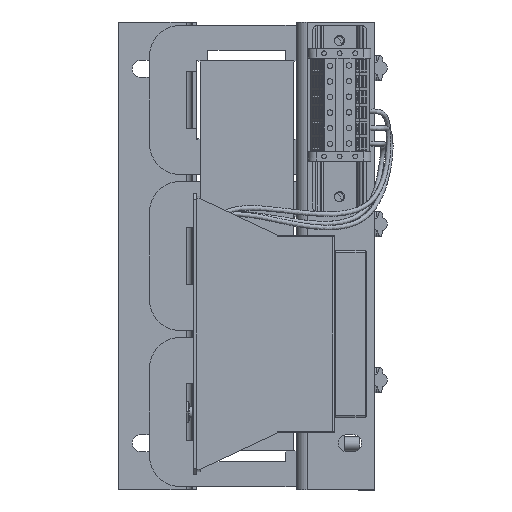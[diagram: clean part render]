
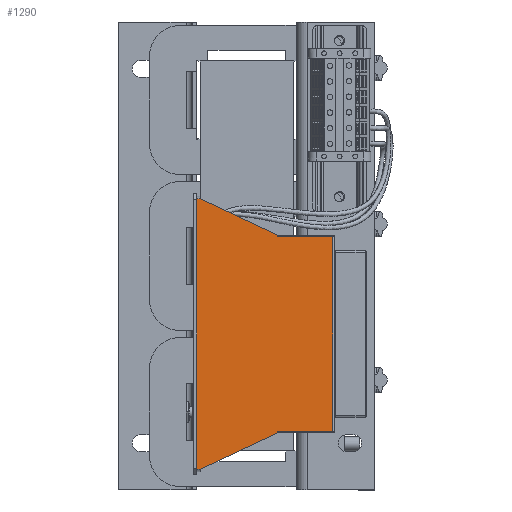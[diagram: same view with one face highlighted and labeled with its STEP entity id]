
A CAD part, left-side view. The second image highlights one B-rep face of the part: STEP entity #1290.
In plain terms, the highlighted planar face has unit normal (-1, 0, 0).
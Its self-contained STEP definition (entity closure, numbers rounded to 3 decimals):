
#269=CARTESIAN_POINT('',(-155.47,136.857,-227.073));
#270=VERTEX_POINT('',#269);
#278=CARTESIAN_POINT('',(-155.47,136.857,-53.704));
#279=VERTEX_POINT('',#278);
#280=CARTESIAN_POINT('',(-155.47,136.857,-227.073));
#281=DIRECTION('',(0.0,0.0,1.0));
#282=VECTOR('',#281,173.369);
#283=LINE('',#280,#282);
#284=EDGE_CURVE('',#270,#279,#283,.T.);
#819=CARTESIAN_POINT('',(-155.47,134.857,-227.073));
#820=VERTEX_POINT('',#819);
#821=CARTESIAN_POINT('',(-155.47,85.257,-203.789));
#822=VERTEX_POINT('',#821);
#823=CARTESIAN_POINT('',(-155.47,134.857,-227.073));
#824=DIRECTION('',(0.0,-0.905,0.425));
#825=VECTOR('',#824,54.793);
#826=LINE('',#823,#825);
#827=EDGE_CURVE('',#820,#822,#826,.T.);
#998=CARTESIAN_POINT('',(-155.47,85.257,-76.989));
#999=VERTEX_POINT('',#998);
#1000=CARTESIAN_POINT('',(-155.47,134.857,-53.704));
#1001=VERTEX_POINT('',#1000);
#1002=CARTESIAN_POINT('',(-155.47,85.257,-76.989));
#1003=DIRECTION('',(0.0,0.905,0.425));
#1004=VECTOR('',#1003,54.793);
#1005=LINE('',#1002,#1004);
#1006=EDGE_CURVE('',#999,#1001,#1005,.T.);
#1230=CARTESIAN_POINT('',(-155.47,136.857,-203.789));
#1231=DIRECTION('',(-1.0,0.0,0.0));
#1232=DIRECTION('',(0.0,1.0,0.0));
#1233=AXIS2_PLACEMENT_3D('',#1230,#1231,#1232);
#1234=PLANE('',#1233);
#1235=ORIENTED_EDGE('',*,*,#827,.T.);
#1236=CARTESIAN_POINT('',(-155.47,85.257,-202.789));
#1237=VERTEX_POINT('',#1236);
#1238=CARTESIAN_POINT('',(-155.47,85.257,-202.789));
#1239=DIRECTION('',(0.0,0.0,-1.0));
#1240=VECTOR('',#1239,1.0);
#1241=LINE('',#1238,#1240);
#1242=EDGE_CURVE('',#1237,#822,#1241,.T.);
#1243=ORIENTED_EDGE('',*,*,#1242,.F.);
#1244=CARTESIAN_POINT('',(-155.47,49.857,-202.789));
#1245=VERTEX_POINT('',#1244);
#1246=CARTESIAN_POINT('',(-155.47,49.857,-202.789));
#1247=DIRECTION('',(0.0,1.0,0.0));
#1248=VECTOR('',#1247,35.4);
#1249=LINE('',#1246,#1248);
#1250=EDGE_CURVE('',#1245,#1237,#1249,.T.);
#1251=ORIENTED_EDGE('',*,*,#1250,.F.);
#1252=CARTESIAN_POINT('',(-155.47,49.857,-77.989));
#1253=VERTEX_POINT('',#1252);
#1254=CARTESIAN_POINT('',(-155.47,49.857,-77.989));
#1255=DIRECTION('',(0.0,0.0,-1.0));
#1256=VECTOR('',#1255,124.8);
#1257=LINE('',#1254,#1256);
#1258=EDGE_CURVE('',#1253,#1245,#1257,.T.);
#1259=ORIENTED_EDGE('',*,*,#1258,.F.);
#1260=CARTESIAN_POINT('',(-155.47,85.257,-77.989));
#1261=VERTEX_POINT('',#1260);
#1262=CARTESIAN_POINT('',(-155.47,85.257,-77.989));
#1263=DIRECTION('',(0.0,-1.0,0.0));
#1264=VECTOR('',#1263,35.4);
#1265=LINE('',#1262,#1264);
#1266=EDGE_CURVE('',#1261,#1253,#1265,.T.);
#1267=ORIENTED_EDGE('',*,*,#1266,.F.);
#1268=CARTESIAN_POINT('',(-155.47,85.257,-76.989));
#1269=DIRECTION('',(0.0,0.0,-1.0));
#1270=VECTOR('',#1269,1.0);
#1271=LINE('',#1268,#1270);
#1272=EDGE_CURVE('',#999,#1261,#1271,.T.);
#1273=ORIENTED_EDGE('',*,*,#1272,.F.);
#1274=ORIENTED_EDGE('',*,*,#1006,.T.);
#1275=CARTESIAN_POINT('',(-155.47,136.857,-53.704));
#1276=DIRECTION('',(0.0,-1.0,0.0));
#1277=VECTOR('',#1276,2.0);
#1278=LINE('',#1275,#1277);
#1279=EDGE_CURVE('',#279,#1001,#1278,.T.);
#1280=ORIENTED_EDGE('',*,*,#1279,.F.);
#1281=ORIENTED_EDGE('',*,*,#284,.F.);
#1282=CARTESIAN_POINT('',(-155.47,136.857,-227.073));
#1283=DIRECTION('',(0.0,-1.0,0.0));
#1284=VECTOR('',#1283,2.0);
#1285=LINE('',#1282,#1284);
#1286=EDGE_CURVE('',#270,#820,#1285,.T.);
#1287=ORIENTED_EDGE('',*,*,#1286,.T.);
#1288=EDGE_LOOP('',(#1235,#1243,#1251,#1259,#1267,#1273,#1274,#1280,#1281,#1287));
#1289=FACE_OUTER_BOUND('',#1288,.T.);
#1290=ADVANCED_FACE('',(#1289),#1234,.T.);
